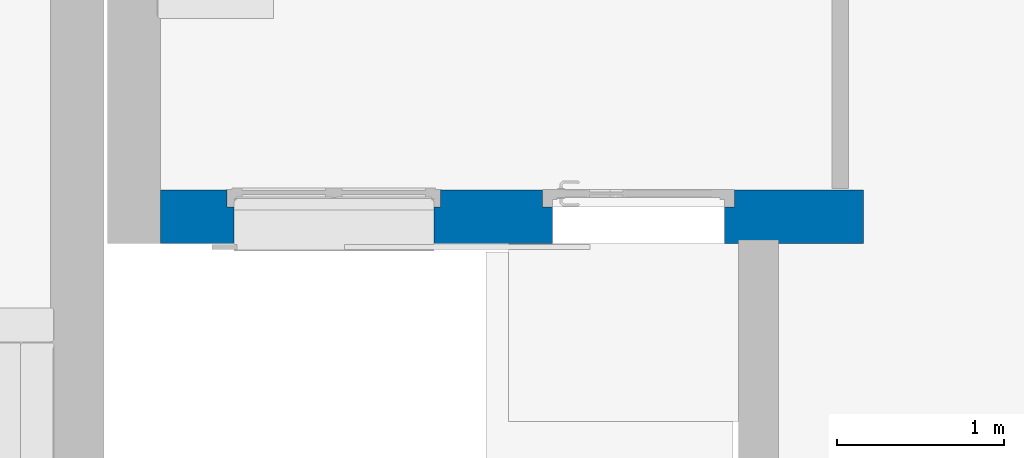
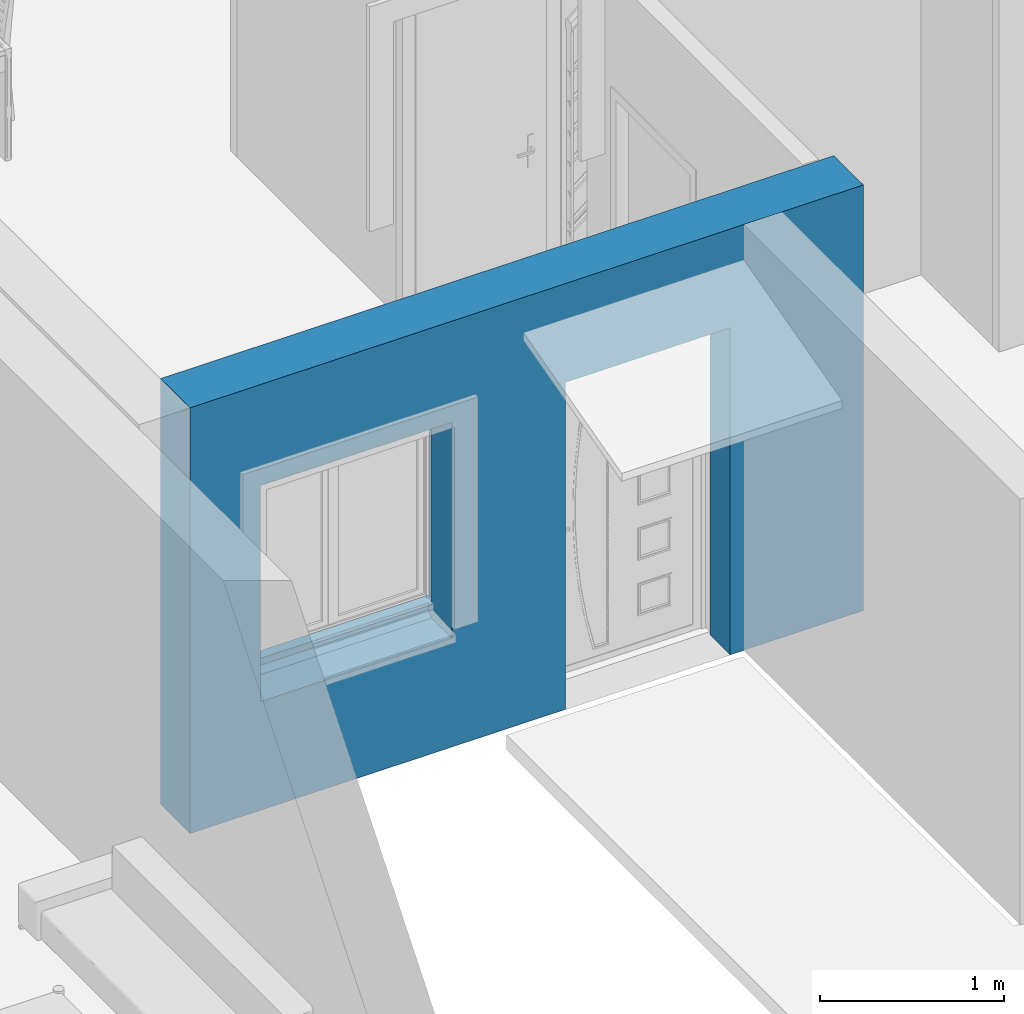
# One storey, part 17 of 33: 1 wall, 2 openings.
"""IFC2X3 building model written with IfcOpenShell, lengths in metres."""

from ifc_helpers import new_model, entity, si_unit, converted_unit, derived_unit, direction, frame, frame_2d, origin, place, context, subcontext, project, spatial, rectangle, extrude, faceted_brep, material, layer, layer_set, layer_usage, type_object, element, save


model = new_model("IFC2X3")

# Units and contexts
model_context = context("Model", 3, precision=1e-05, world=origin(), true_north=direction((6.12303176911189e-17, 1.0)))
context_of_model = context(None, 3, precision=1e-05, world=origin(), true_north=direction((6.12303176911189e-17, 1.0)))
body_context = subcontext(model_context, "Body", "Model", "MODEL_VIEW")
ifc_project = project(units=[si_unit("LENGTHUNIT", "METRE"), si_unit("AREAUNIT", "SQUARE_METRE"), si_unit("VOLUMEUNIT", "CUBIC_METRE"), converted_unit("PLANEANGLEUNIT", "DEGREE", entity("IfcRatioMeasure", 0.0174532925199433), si_unit("PLANEANGLEUNIT", "RADIAN"), dimensions=[0, 0, 0, 0, 0, 0, 0]), si_unit("MASSUNIT", "GRAM", prefix="KILO"), si_unit("TIMEUNIT", "SECOND"), si_unit("FREQUENCYUNIT", "HERTZ"), si_unit("THERMODYNAMICTEMPERATUREUNIT", "DEGREE_CELSIUS"), derived_unit("THERMALTRANSMITTANCEUNIT", [(si_unit("MASSUNIT", "GRAM", prefix="KILO"), 1), (si_unit("THERMODYNAMICTEMPERATUREUNIT", "KELVIN"), -1), (si_unit("TIMEUNIT", "SECOND"), -3)]), derived_unit("VOLUMETRICFLOWRATEUNIT", [(si_unit("LENGTHUNIT", "METRE"), 3), (si_unit("TIMEUNIT", "SECOND"), -1)]), si_unit("ELECTRICCURRENTUNIT", "AMPERE"), si_unit("ELECTRICVOLTAGEUNIT", "VOLT"), si_unit("POWERUNIT", "WATT"), si_unit("FORCEUNIT", "NEWTON", prefix="KILO"), si_unit("ILLUMINANCEUNIT", "LUX"), si_unit("LUMINOUSFLUXUNIT", "LUMEN"), si_unit("LUMINOUSINTENSITYUNIT", "CANDELA"), si_unit("PRESSUREUNIT", "PASCAL")], contexts=[model_context, context_of_model])

# Site, building, storey
site_placement = place(None, origin())
site = spatial("IfcSite", under=ifc_project, at=site_placement, Name="Surface", CompositionType="ELEMENT")
building_placement = place(site_placement, origin())
building = spatial("IfcBuilding", under=site, at=building_placement, CompositionType="ELEMENT")
storey_placement = place(building_placement, origin())
storey = spatial("IfcBuildingStorey", under=building, at=storey_placement, Name="Plan des fondations  Maisons 1 et 2", CompositionType="ELEMENT", Elevation=0.0)

# Wall, openings
ifc_material_1 = material(Name="Enduit blanc cassé2")
ifc_layer_1 = layer(ifc_material_1, 0.02)
ifc_material_2 = material(Name="Parpaing")
ifc_layer_2 = layer(ifc_material_2, 0.2)
ifc_material_3 = material(Name="Isolant")
ifc_layer_3 = layer(ifc_material_3, 0.1)
ifc_layer_set = layer_set([ifc_layer_1, ifc_layer_2, ifc_layer_3], Name="Mur de base:Ext. Parpaing 20 + Isolant 10 enduit blanc cassé")
ifc_layer_usage = layer_usage(ifc_layer_set, "AXIS2", "POSITIVE", -0.16)
wall_type = type_object("IfcWallType", Name="Mur de base:Ext. Parpaing 20 + Isolant 10 enduit blanc cassé", PredefinedType="STANDARD", material=ifc_layer_set)
wall_placement = place(storey_placement, frame((76.622756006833, 84.0875239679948, 0.0)))
wall = element("IfcWallStandardCase", 1, at=wall_placement, inside=storey, type_object=wall_type, material=ifc_layer_usage, Name="Mur de base:Ext. Parpaing 20 + Isolant 10 enduit blanc cassé", ObjectType="Mur de base:Ext. Parpaing 20 + Isolant 10 enduit blanc cassé", context=body_context, shape_type="SweptSolid", body=[
    extrude(rectangle(XDim=4.21826294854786, YDim=0.319999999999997, at=frame_2d((2.10913147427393, -5.55111512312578e-16), x_axis=(-1.0, 0.0))), origin(), (0.0, 0.0, 1.0), 2.82),
])
opening_1_placement = place(wall_placement, frame((2.29326294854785, -0.5, 0.0)))
element("IfcOpeningElement", 2, at=opening_1_placement, cuts=wall, Name="Mur de base:Ext. Parpaing 20 + Isolant 10 enduit blanc cassé", ObjectType="Opening", context=body_context, shape_type="Brep", body=[
    faceted_brep([(0.0600000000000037, 0.0, 0.0), (1.09000000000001, 0.0, 0.0), (1.09000000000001, 0.0, 2.16499999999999), (0.0600000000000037, 0.0, 2.16499999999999), (0.0600000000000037, 1.0, 0.0), (0.0600000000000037, 1.0, 2.16499999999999), (1.09000000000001, 1.0, 2.16499999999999), (1.09000000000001, 1.0, 0.0), (0.0600000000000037, 0.559999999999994, 0.0), (0.0, 0.559999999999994, 0.0), (0.0, 0.910000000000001, 0.0), (0.0600000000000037, 0.910000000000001, 0.0), (1.09000000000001, 0.910000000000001, 0.0), (1.15, 0.910000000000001, 0.0), (1.15, 0.559999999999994, 0.0), (1.08999999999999, 0.559999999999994, 0.0), (1.09000000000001, 0.559999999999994, 2.16499999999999), (0.0600000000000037, 0.559999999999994, 2.16499999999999), (0.0, 0.910000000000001, 2.225), (1.15, 0.910000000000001, 2.225), (1.09000000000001, 0.910000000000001, 2.16499999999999), (0.0600000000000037, 0.910000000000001, 2.16499999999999), (0.0, 0.559999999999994, 2.225), (1.15, 0.559999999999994, 2.225)], [[[0, 1, 2, 3]], [[4, 5, 6, 7]], [[0, 8, 9, 10, 11, 4, 7, 12, 13, 14, 15, 1]], [[1, 15, 16, 2]], [[2, 16, 17, 3]], [[3, 17, 8, 0]], [[18, 19, 13, 12, 20, 21, 11, 10]], [[22, 9, 8, 17, 16, 15, 14, 23]], [[18, 22, 23, 19]], [[19, 23, 14, 13]], [[10, 9, 22, 18]], [[4, 11, 21, 5]], [[5, 21, 20, 6]], [[6, 20, 12, 7]]]),
])
opening_2_placement = place(wall_placement, frame((0.389999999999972, -0.5, 0.719999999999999)))
element("IfcOpeningElement", 3, at=opening_2_placement, cuts=wall, Name="Mur de base:Ext. Parpaing 20 + Isolant 10 enduit blanc cassé", ObjectType="Opening", context=body_context, shape_type="Brep", body=[
    faceted_brep([(1.24999999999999, 1.0, 1.43), (1.24999999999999, 1.0, 0.0799999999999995), (0.0499999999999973, 1.0, 0.0799999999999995), (0.0499999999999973, 1.0, 1.43), (1.25000000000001, 0.0, 1.43), (0.050000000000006, 0.0, 1.43), (0.050000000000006, 0.0, 0.0799999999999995), (1.25000000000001, 0.0, 0.0799999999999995), (0.0499999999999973, 0.673000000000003, 1.43), (1.24999999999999, 0.672999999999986, 1.43), (0.0499999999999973, 0.673000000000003, 0.0799999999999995), (1.24999999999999, 0.672999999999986, 0.0799999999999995), (1.29, 0.673000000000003, 0.0799999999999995), (1.29, 0.559999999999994, 0.0799999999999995), (1.24999999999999, 0.559999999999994, 0.0799999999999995), (1.24999999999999, 0.594999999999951, 0.0799999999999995), (0.0499999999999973, 0.594999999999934, 0.0799999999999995), (0.0499999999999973, 0.559999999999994, 0.0799999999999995), (0.00999999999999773, 0.559999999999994, 0.0799999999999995), (0.00999999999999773, 0.673000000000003, 0.0799999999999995), (0.00999999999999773, 0.672999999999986, 1.47), (1.29, 0.672999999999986, 1.47), (0.00999999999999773, 0.559999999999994, 1.47), (0.0499999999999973, 0.559999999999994, 1.43), (1.24999999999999, 0.559999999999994, 1.43), (1.29, 0.559999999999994, 1.47), (1.3, 0.559999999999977, 1.47), (1.3, 0.559999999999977, 1.65), (0.0, 0.559999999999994, 1.65), (0.0, 0.559999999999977, 1.47), (0.0, 0.692999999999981, 1.65), (0.0, 0.692999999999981, 1.47), (1.3, 0.692999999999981, 1.65), (1.3, 0.692999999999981, 1.47), (0.0499999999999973, 0.559999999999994, 0.0), (0.0499999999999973, 0.594999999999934, 0.034999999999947), (1.24999999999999, 0.594999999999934, 0.0349999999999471), (1.24999999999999, 0.559999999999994, 0.0), (0.050000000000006, 0.294999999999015, 0.0799999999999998), (0.050000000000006, 0.294999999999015, 0.0), (1.24999999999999, 0.294999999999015, 0.0), (1.24999999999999, 0.294999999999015, 0.0799999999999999)], [[[0, 1, 2, 3]], [[4, 5, 6, 7]], [[0, 3, 8, 9]], [[3, 2, 10, 8]], [[2, 1, 11, 12, 13, 14, 15, 16, 17, 18, 19, 10]], [[1, 0, 9, 11]], [[10, 19, 20, 21, 12, 11, 9, 8]], [[19, 18, 22, 20]], [[18, 17, 23, 24, 14, 13, 25, 26, 27, 28, 29, 22]], [[12, 21, 25, 13]], [[30, 31, 29, 28]], [[32, 27, 26, 33]], [[30, 28, 27, 32]], [[29, 31, 33, 26, 25, 21, 20, 22]], [[31, 30, 32, 33]], [[34, 35, 36, 37]], [[35, 16, 15, 36]], [[38, 39, 40, 41]], [[39, 34, 37, 40]], [[4, 7, 41, 40, 37, 36, 15, 14, 24]], [[7, 6, 38, 41]], [[6, 5, 23, 17, 16, 35, 34, 39, 38]], [[5, 4, 24, 23]]]),
])

save(model, "model.ifc")
